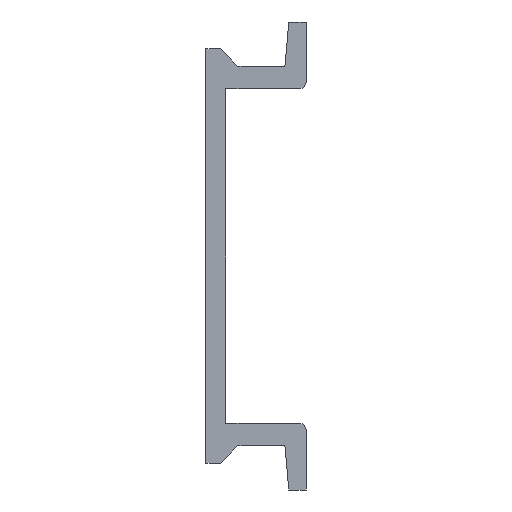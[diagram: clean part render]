
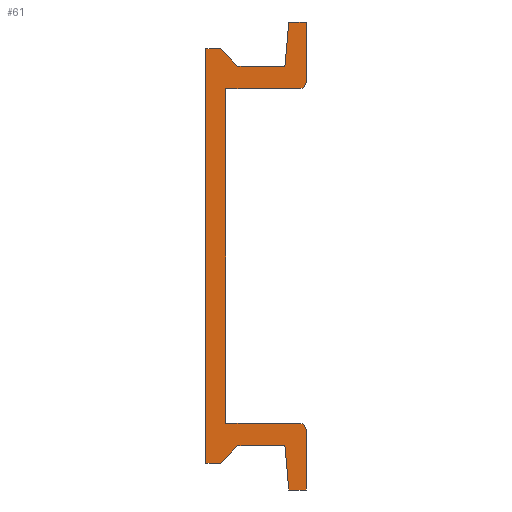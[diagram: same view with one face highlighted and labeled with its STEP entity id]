
A CAD part, left-side view. The second image highlights one B-rep face of the part: STEP entity #61.
In plain terms, the highlighted planar face has unit normal (-1, 0, 0).
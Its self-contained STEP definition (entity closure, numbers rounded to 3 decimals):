
#61=ADVANCED_FACE('',(#397),#396,.F.);
#396=PLANE('',#1376);
#397=FACE_OUTER_BOUND('',#1377,.T.);
#1373=CARTESIAN_POINT('',(0.,-8.25,21.));
#1374=DIRECTION('',(1.,0.,0.));
#1375=DIRECTION('',(0.,0.,-1.));
#1376=AXIS2_PLACEMENT_3D('',#1373,#1374,#1375);
#1377=EDGE_LOOP('',(#2054,#2055,#2056,#2057,#2058,#2059,#2060,#2061,#2062,#2063,#2064,#2065,#2066,#2067,#2068,#2069,#2070,#2071));
#2054=ORIENTED_EDGE('',*,*,#2407,.T.);
#2055=ORIENTED_EDGE('',*,*,#2411,.T.);
#2056=ORIENTED_EDGE('',*,*,#2623,.T.);
#2057=ORIENTED_EDGE('',*,*,#2620,.T.);
#2058=ORIENTED_EDGE('',*,*,#2617,.T.);
#2059=ORIENTED_EDGE('',*,*,#2614,.T.);
#2060=ORIENTED_EDGE('',*,*,#2611,.T.);
#2061=ORIENTED_EDGE('',*,*,#2608,.T.);
#2062=ORIENTED_EDGE('',*,*,#2605,.T.);
#2063=ORIENTED_EDGE('',*,*,#2602,.T.);
#2064=ORIENTED_EDGE('',*,*,#2517,.T.);
#2065=ORIENTED_EDGE('',*,*,#2514,.T.);
#2066=ORIENTED_EDGE('',*,*,#2511,.T.);
#2067=ORIENTED_EDGE('',*,*,#2508,.T.);
#2068=ORIENTED_EDGE('',*,*,#2505,.T.);
#2069=ORIENTED_EDGE('',*,*,#2502,.T.);
#2070=ORIENTED_EDGE('',*,*,#2499,.T.);
#2071=ORIENTED_EDGE('',*,*,#2496,.T.);
#2407=EDGE_CURVE('',#2754,#2755,#2756,.T.);
#2411=EDGE_CURVE('',#2755,#2782,#2783,.T.);
#2496=EDGE_CURVE('',#3375,#2754,#3376,.T.);
#2499=EDGE_CURVE('',#3395,#3375,#3396,.T.);
#2502=EDGE_CURVE('',#3415,#3395,#3416,.T.);
#2505=EDGE_CURVE('',#3435,#3415,#3436,.T.);
#2508=EDGE_CURVE('',#3455,#3435,#3456,.T.);
#2511=EDGE_CURVE('',#3475,#3455,#3476,.T.);
#2514=EDGE_CURVE('',#3495,#3475,#3496,.T.);
#2517=EDGE_CURVE('',#3515,#3495,#3516,.T.);
#2602=EDGE_CURVE('',#4108,#3515,#4109,.T.);
#2605=EDGE_CURVE('',#4128,#4108,#4129,.T.);
#2608=EDGE_CURVE('',#4148,#4128,#4149,.T.);
#2611=EDGE_CURVE('',#4168,#4148,#4169,.T.);
#2614=EDGE_CURVE('',#4188,#4168,#4189,.T.);
#2617=EDGE_CURVE('',#4208,#4188,#4209,.T.);
#2620=EDGE_CURVE('',#4228,#4208,#4229,.T.);
#2623=EDGE_CURVE('',#2782,#4228,#4248,.T.);
#2754=VERTEX_POINT('',#4775);
#2755=VERTEX_POINT('',#4776);
#2756=LINE('',#4777,#4778);
#2782=VERTEX_POINT('',#4791);
#2783=LINE('',#4792,#4793);
#3375=VERTEX_POINT('',#5170);
#3376=CIRCLE('',#5174,0.5);
#3395=VERTEX_POINT('',#5183);
#3396=LINE('',#5184,#5185);
#3415=VERTEX_POINT('',#5194);
#3416=LINE('',#5195,#5196);
#3435=VERTEX_POINT('',#5205);
#3436=LINE('',#5206,#5207);
#3455=VERTEX_POINT('',#5216);
#3456=LINE('',#5217,#5218);
#3475=VERTEX_POINT('',#5227);
#3476=LINE('',#5228,#5229);
#3495=VERTEX_POINT('',#5238);
#3496=LINE('',#5239,#5240);
#3515=VERTEX_POINT('',#5249);
#3516=LINE('',#5250,#5251);
#4108=VERTEX_POINT('',#5628);
#4109=LINE('',#5629,#5630);
#4128=VERTEX_POINT('',#5639);
#4129=LINE('',#5640,#5641);
#4148=VERTEX_POINT('',#5650);
#4149=LINE('',#5651,#5652);
#4168=VERTEX_POINT('',#5661);
#4169=LINE('',#5662,#5663);
#4188=VERTEX_POINT('',#5672);
#4189=LINE('',#5673,#5674);
#4208=VERTEX_POINT('',#5683);
#4209=LINE('',#5684,#5685);
#4228=VERTEX_POINT('',#5694);
#4229=CIRCLE('',#5698,0.5);
#4248=LINE('',#5707,#5708);
#4775=CARTESIAN_POINT('',(0.,-7.,-12.5));
#4776=CARTESIAN_POINT('',(0.,-1.5,-12.5));
#4777=CARTESIAN_POINT('',(0.,-7.,-12.5));
#4778=VECTOR('',#4779,5.5);
#4779=DIRECTION('',(0.,1.,0.));
#4791=CARTESIAN_POINT('',(0.,-1.5,12.5));
#4792=CARTESIAN_POINT('',(0.,-1.5,-12.5));
#4793=VECTOR('',#4794,25.);
#4794=DIRECTION('',(0.,0.,1.));
#5170=CARTESIAN_POINT('',(0.,-7.5,-13.));
#5171=CARTESIAN_POINT('',(0.,-7.,-13.));
#5172=DIRECTION('',(-1.,0.,0.));
#5173=DIRECTION('',(0.,0.,1.));
#5174=AXIS2_PLACEMENT_3D('',#5171,#5172,#5173);
#5183=CARTESIAN_POINT('',(0.,-7.5,-17.5));
#5184=CARTESIAN_POINT('',(0.,-7.5,-17.5));
#5185=VECTOR('',#5186,4.5);
#5186=DIRECTION('',(0.,0.,1.));
#5194=CARTESIAN_POINT('',(0.,-6.2,-17.5));
#5195=CARTESIAN_POINT('',(0.,-6.2,-17.5));
#5196=VECTOR('',#5197,1.3);
#5197=DIRECTION('',(0.,-1.,0.));
#5205=CARTESIAN_POINT('',(0.,-5.911,-14.2));
#5206=CARTESIAN_POINT('',(0.,-5.911,-14.2));
#5207=VECTOR('',#5208,3.313);
#5208=DIRECTION('',(0.,-0.087,-0.996));
#5216=CARTESIAN_POINT('',(0.,-2.4,-14.2));
#5217=CARTESIAN_POINT('',(0.,-2.4,-14.2));
#5218=VECTOR('',#5219,3.511);
#5219=DIRECTION('',(0.,-1.,0.));
#5227=CARTESIAN_POINT('',(0.,-1.1,-15.5));
#5228=CARTESIAN_POINT('',(0.,-1.1,-15.5));
#5229=VECTOR('',#5230,1.838);
#5230=DIRECTION('',(0.,-0.707,0.707));
#5238=CARTESIAN_POINT('',(0.,0.,-15.5));
#5239=CARTESIAN_POINT('',(0.,0.,-15.5));
#5240=VECTOR('',#5241,1.1);
#5241=DIRECTION('',(0.,-1.,0.));
#5249=CARTESIAN_POINT('',(0.,0.,15.5));
#5250=CARTESIAN_POINT('',(0.,0.,15.5));
#5251=VECTOR('',#5252,31.);
#5252=DIRECTION('',(0.,0.,-1.));
#5628=CARTESIAN_POINT('',(0.,-1.1,15.5));
#5629=CARTESIAN_POINT('',(0.,-1.1,15.5));
#5630=VECTOR('',#5631,1.1);
#5631=DIRECTION('',(0.,1.,0.));
#5639=CARTESIAN_POINT('',(0.,-2.4,14.2));
#5640=CARTESIAN_POINT('',(0.,-2.4,14.2));
#5641=VECTOR('',#5642,1.838);
#5642=DIRECTION('',(0.,0.707,0.707));
#5650=CARTESIAN_POINT('',(0.,-5.911,14.2));
#5651=CARTESIAN_POINT('',(0.,-5.911,14.2));
#5652=VECTOR('',#5653,3.511);
#5653=DIRECTION('',(0.,1.,0.));
#5661=CARTESIAN_POINT('',(0.,-6.2,17.5));
#5662=CARTESIAN_POINT('',(0.,-6.2,17.5));
#5663=VECTOR('',#5664,3.313);
#5664=DIRECTION('',(0.,0.087,-0.996));
#5672=CARTESIAN_POINT('',(0.,-7.5,17.5));
#5673=CARTESIAN_POINT('',(0.,-7.5,17.5));
#5674=VECTOR('',#5675,1.3);
#5675=DIRECTION('',(0.,1.,0.));
#5683=CARTESIAN_POINT('',(0.,-7.5,13.));
#5684=CARTESIAN_POINT('',(0.,-7.5,13.));
#5685=VECTOR('',#5686,4.5);
#5686=DIRECTION('',(0.,0.,1.));
#5694=CARTESIAN_POINT('',(0.,-7.,12.5));
#5695=CARTESIAN_POINT('',(0.,-7.,13.));
#5696=DIRECTION('',(-1.,0.,0.));
#5697=DIRECTION('',(0.,0.,1.));
#5698=AXIS2_PLACEMENT_3D('',#5695,#5696,#5697);
#5707=CARTESIAN_POINT('',(0.,-1.5,12.5));
#5708=VECTOR('',#5709,5.5);
#5709=DIRECTION('',(0.,-1.,0.));
